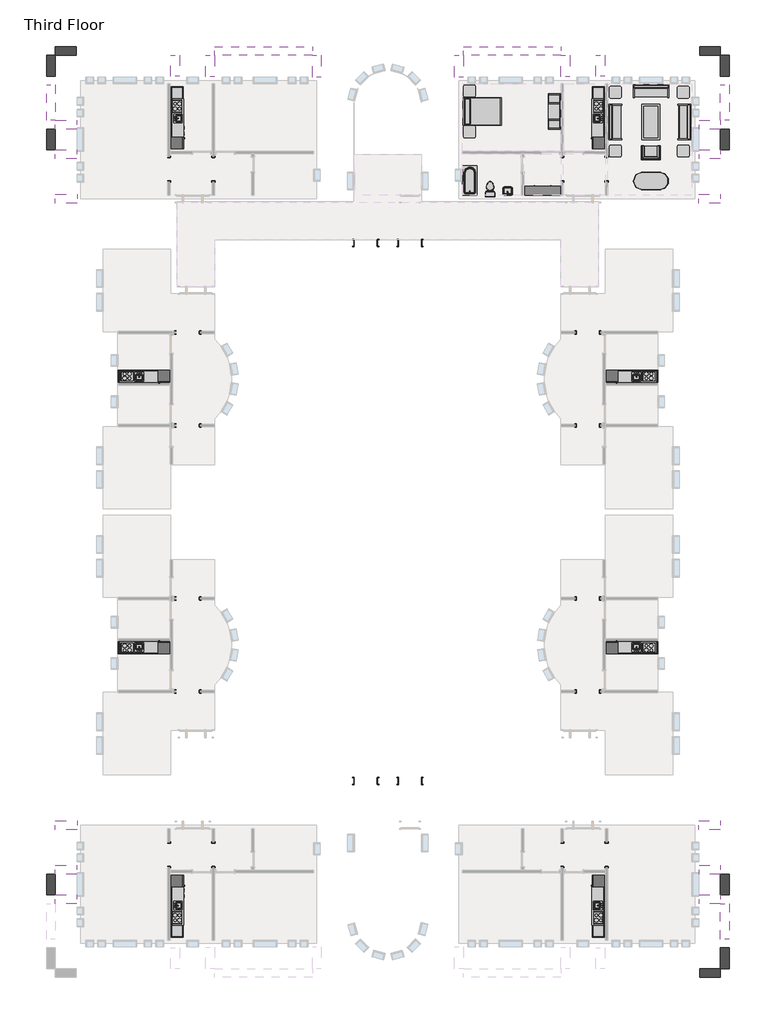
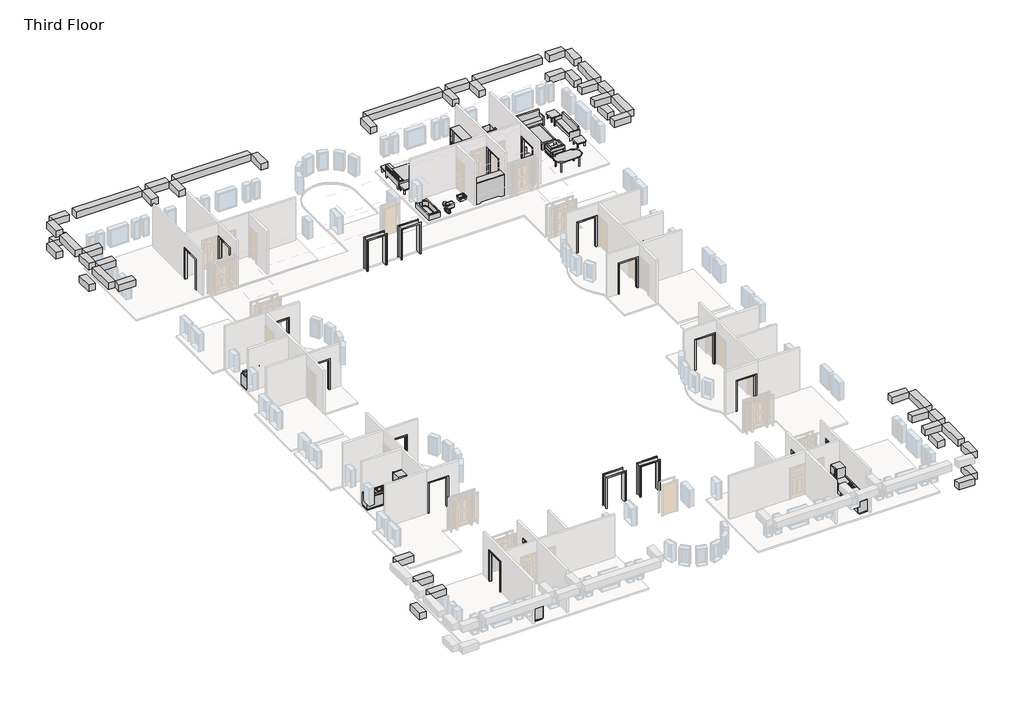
# One storey, part 4 of 4: 33 beams, 28 proxies, 15 furniture elements, 3 flow terminals.
"""IFC4 building model written with IfcOpenShell, lengths in millimetres."""

from ifc_helpers import new_model, si_unit, frame, origin, place, context, project, spatial, polyline, outline, extrude, transform, mapped, element, save
from components import kitchenette_medium_5_9f73a4de, kitchenette_medium_5_952fb32b, proxy_64a468c4, proxy_b7eaed23, proxy_f44482cc, proxy_c3589814, proxy_d58c73d0, proxy_1659ed5c, flow_terminal_0aeb31e3, toilet_domestic_3d_toilet_domestic_3d_f7549cf7, toilet_domestic_3d_toilet_domestic_3d_183bbd19, tub_rectangular_3d_tub_rectangular_3d_5e45a89b, furniture_096e7f55, chair_corbu_chair_corbu_2764bdef, furniture_7c473f12, furniture_ddc78764, furniture_4ef38d96, furniture_cd93a443, furniture_2c34a4f9, furniture_3a588284, furniture_1befe2a2

model = new_model("IFC4")

# Units and contexts
model_context = context("Model", 3, world=origin())
ifc_project = project(units=[si_unit("LENGTHUNIT", "METRE", prefix="MILLI")], contexts=[model_context])

# Site, building, storey
site = spatial("IfcSite", under=ifc_project)
building = spatial("IfcBuilding", under=site)
storey = spatial("IfcBuildingStorey", under=building, Name="Third Floor", Elevation=6096.0)

# Beams
placement = place(None, origin())
element("IfcBeam", 1, ObjectType="Concrete-Rectangular Beam : 18 x 18", at=placement, inside=storey, context=model_context, shape_type="SweptSolid", body=[
    extrude(outline(polyline([(2093.9410437, 12198.8316867), (2093.9410437, 11741.6316867), (1027.1410437, 11741.6316867), (1027.1410437, 12198.8316867), (2093.9410437, 12198.8316867)])), frame((0.0, 0.0, 8686.8), z_axis=(0.0, 0.0, 1.0), x_axis=(1.0, 0.0, 0.0)), (0.0, 0.0, 1.0), 457.2),
    extrude(outline(polyline([(569.9410437, 12198.8316867), (569.9410437, 11741.6316867), (-3862.3589563, 11741.6316867), (-3862.3589563, 12198.8316867), (569.9410437, 12198.8316867)])), frame((0.0, 0.0, 8686.8), z_axis=(0.0, 0.0, 1.0), x_axis=(1.0, 0.0, 0.0)), (0.0, 0.0, 1.0), 457.2),
    extrude(outline(polyline([(-5665.7589563, 11741.6316867), (-5665.7589563, 12198.8316867), (-4319.5589563, 12198.8316867), (-4319.5589563, 11741.6316867), (-5665.7589563, 11741.6316867)])), frame((0.0, 0.0, 8686.8), z_axis=(0.0, 0.0, 1.0), x_axis=(1.0, 0.0, 0.0)), (0.0, 0.0, 1.0), 457.2),
    extrude(outline(polyline([(-6122.9589563, 12198.8316867), (-6122.9589563, 11741.6316867), (-11164.8589563, 11741.6316867), (-11164.8589563, 12198.8316867), (-6122.9589563, 12198.8316867)])), frame((0.0, 0.0, 8686.8), z_axis=(0.0, 0.0, 1.0), x_axis=(1.0, 0.0, 0.0)), (0.0, 0.0, 1.0), 457.2),
])
element("IfcBeam", 2, ObjectType="Concrete-Rectangular Beam : 18 x 18", at=placement, inside=storey, context=model_context, shape_type="SweptSolid", body=[
    extrude(outline(polyline([(2093.9410437, 11741.6316867), (2551.1410437, 11741.6316867), (2551.1410437, 10674.8316867), (2093.9410437, 10674.8316867), (2093.9410437, 11741.6316867)])), frame((0.0, 0.0, 8686.8), z_axis=(0.0, 0.0, 1.0), x_axis=(1.0, 0.0, 0.0)), (0.0, 0.0, 1.0), 457.2),
    extrude(outline(polyline([(2551.1410437, 4578.8316867), (2093.9410437, 4578.8316867), (2093.9410437, 6407.6316867), (2551.1410437, 6407.6316867), (2551.1410437, 4578.8316867)])), frame((0.0, 0.0, 8686.8), z_axis=(0.0, 0.0, 1.0), x_axis=(1.0, 0.0, 0.0)), (0.0, 0.0, 1.0), 457.2),
    extrude(outline(polyline([(2551.1410437, 6864.8316867), (2093.9410437, 6864.8316867), (2093.9410437, 7931.6316867), (2551.1410437, 7931.6316867), (2551.1410437, 6864.8316867)])), frame((0.0, 0.0, 8686.8), z_axis=(0.0, 0.0, 1.0), x_axis=(1.0, 0.0, 0.0)), (0.0, 0.0, 1.0), 457.2),
    extrude(outline(polyline([(2093.9410437, 10217.6316867), (2551.1410437, 10217.6316867), (2551.1410437, 8388.8316867), (2093.9410437, 8388.8316867), (2093.9410437, 10217.6316867)])), frame((0.0, 0.0, 8686.8), z_axis=(0.0, 0.0, 1.0), x_axis=(1.0, 0.0, 0.0)), (0.0, 0.0, 1.0), 457.2),
])
element("IfcBeam", 3, ObjectType="Concrete-Rectangular Beam : 18 x 18", at=placement, inside=storey, context=model_context, shape_type="SweptSolid", body=[
    extrude(outline(polyline([(2093.9410437, 12198.8316867), (2093.9410437, 11741.6316867), (1027.1410437, 11741.6316867), (1027.1410437, 12198.8316867), (2093.9410437, 12198.8316867)])), frame((0.0, 0.0, 7162.8), z_axis=(0.0, 0.0, 1.0), x_axis=(1.0, 0.0, 0.0)), (0.0, 0.0, 1.0), 457.2),
])
element("IfcBeam", 4, ObjectType="Concrete-Rectangular Beam : 18 x 18", at=placement, inside=storey, context=model_context, shape_type="SweptSolid", body=[
    extrude(outline(polyline([(2551.1410437, 10674.8316867), (2093.9410437, 10674.8316867), (2093.9410437, 11741.6316867), (2551.1410437, 11741.6316867), (2551.1410437, 10674.8316867)])), frame((0.0, 0.0, 7162.8), z_axis=(0.0, 0.0, 1.0), x_axis=(1.0, 0.0, 0.0)), (0.0, 0.0, 1.0), 457.2),
])
element("IfcBeam", 5, ObjectType="Concrete-Rectangular Beam : 18 x 18", at=placement, inside=storey, context=model_context, shape_type="SweptSolid", body=[
    extrude(outline(polyline([(-11164.8589563, 10624.0316867), (-11622.0589563, 10624.0316867), (-11622.0589563, 11741.6316867), (-11164.8589563, 11741.6316867), (-11164.8589563, 10624.0316867)])), frame((0.0, 0.0, 8686.8), z_axis=(0.0, 0.0, 1.0), x_axis=(1.0, 0.0, 0.0)), (0.0, 0.0, 1.0), 457.2),
])
element("IfcBeam", 6, ObjectType="Concrete-Rectangular Beam : 18 x 18", at=placement, inside=storey, context=model_context, shape_type="SweptSolid", body=[
    extrude(outline(polyline([(-5665.7589563, 10643.0816867), (-6122.9589563, 10643.0816867), (-6122.9589563, 11741.6316867), (-5665.7589563, 11741.6316867), (-5665.7589563, 10643.0816867)])), frame((0.0, 0.0, 8686.8), z_axis=(0.0, 0.0, 1.0), x_axis=(1.0, 0.0, 0.0)), (0.0, 0.0, 1.0), 457.2),
])
element("IfcBeam", 7, ObjectType="Concrete-Rectangular Beam : 18 x 18", at=placement, inside=storey, context=model_context, shape_type="SweptSolid", body=[
    extrude(outline(polyline([(1001.7410437, 6407.6316867), (1001.7410437, 6864.8316867), (2093.9410437, 6864.8316867), (2093.9410437, 6407.6316867), (1001.7410437, 6407.6316867)])), frame((0.0, 0.0, 8686.8), z_axis=(0.0, 0.0, 1.0), x_axis=(1.0, 0.0, 0.0)), (0.0, 0.0, 1.0), 457.2),
])
element("IfcBeam", 8, ObjectType="Concrete-Rectangular Beam : 18 x 18", at=placement, inside=storey, context=model_context, shape_type="SweptSolid", body=[
    extrude(outline(polyline([(-3862.3589563, 10674.8316867), (-4319.5589563, 10674.8316867), (-4319.5589563, 11741.6316867), (-3862.3589563, 11741.6316867), (-3862.3589563, 10674.8316867)])), frame((0.0, 0.0, 8686.8), z_axis=(0.0, 0.0, 1.0), x_axis=(1.0, 0.0, 0.0)), (0.0, 0.0, 1.0), 457.2),
])
element("IfcBeam", 9, ObjectType="Concrete-Rectangular Beam : 18 x 18", at=placement, inside=storey, context=model_context, shape_type="SweptSolid", body=[
    extrude(outline(polyline([(1001.7410437, 7931.6316867), (1001.7410437, 8388.8316867), (2093.9410437, 8388.8316867), (2093.9410437, 7931.6316867), (1001.7410437, 7931.6316867)])), frame((0.0, 0.0, 8686.8), z_axis=(0.0, 0.0, 1.0), x_axis=(1.0, 0.0, 0.0)), (0.0, 0.0, 1.0), 457.2),
])
element("IfcBeam", 10, ObjectType="Concrete-Rectangular Beam : 18 x 18", at=placement, inside=storey, context=model_context, shape_type="SweptSolid", body=[
    extrude(outline(polyline([(976.3410437, 4121.6316867), (976.3410437, 4578.8316867), (2093.9410437, 4578.8316867), (2093.9410437, 4121.6316867), (976.3410437, 4121.6316867)])), frame((0.0, 0.0, 8686.8), z_axis=(0.0, 0.0, 1.0), x_axis=(1.0, 0.0, 0.0)), (0.0, 0.0, 1.0), 457.2),
])
element("IfcBeam", 11, ObjectType="Concrete-Rectangular Beam : 18 x 18", at=placement, inside=storey, context=model_context, shape_type="SweptSolid", body=[
    extrude(outline(polyline([(2551.1410437, 6864.8316867), (2093.9410437, 6864.8316867), (2093.9410437, 7931.6316867), (2551.1410437, 7931.6316867), (2551.1410437, 6864.8316867)])), frame((0.0, 0.0, 7162.8), z_axis=(0.0, 0.0, 1.0), x_axis=(1.0, 0.0, 0.0)), (0.0, 0.0, 1.0), 457.2),
])
element("IfcBeam", 12, ObjectType="Concrete-Rectangular Beam : 18 x 18", at=placement, inside=storey, context=model_context, shape_type="SweptSolid", body=[
    extrude(outline(polyline([(-32218.2839563, 11741.6316867), (-32218.2839563, 12198.8316867), (-31151.4839563, 12198.8316867), (-31151.4839563, 11741.6316867), (-32218.2839563, 11741.6316867)])), frame((0.0, 0.0, 8686.8), z_axis=(0.0, 0.0, 1.0), x_axis=(1.0, 0.0, 0.0)), (0.0, 0.0, 1.0), 457.2),
    extrude(outline(polyline([(-30694.2839563, 11741.6316867), (-30694.2839563, 12198.8316867), (-26261.9839563, 12198.8316867), (-26261.9839563, 11741.6316867), (-30694.2839563, 11741.6316867)])), frame((0.0, 0.0, 8686.8), z_axis=(0.0, 0.0, 1.0), x_axis=(1.0, 0.0, 0.0)), (0.0, 0.0, 1.0), 457.2),
    extrude(outline(polyline([(-24458.5839563, 12198.8316867), (-24458.5839563, 11741.6316867), (-25804.7839563, 11741.6316867), (-25804.7839563, 12198.8316867), (-24458.5839563, 12198.8316867)])), frame((0.0, 0.0, 8686.8), z_axis=(0.0, 0.0, 1.0), x_axis=(1.0, 0.0, 0.0)), (0.0, 0.0, 1.0), 457.2),
    extrude(outline(polyline([(-24001.3839563, 11741.6316867), (-24001.3839563, 12198.8316867), (-18959.4839563, 12198.8316867), (-18959.4839563, 11741.6316867), (-24001.3839563, 11741.6316867)])), frame((0.0, 0.0, 8686.8), z_axis=(0.0, 0.0, 1.0), x_axis=(1.0, 0.0, 0.0)), (0.0, 0.0, 1.0), 457.2),
])
element("IfcBeam", 13, ObjectType="Concrete-Rectangular Beam : 18 x 18", at=placement, inside=storey, context=model_context, shape_type="SweptSolid", body=[
    extrude(outline(polyline([(-32218.2839563, 4578.8316867), (-32675.4839563, 4578.8316867), (-32675.4839563, 6407.6316867), (-32218.2839563, 6407.6316867), (-32218.2839563, 4578.8316867)])), frame((0.0, 0.0, 8686.8), z_axis=(0.0, 0.0, 1.0), x_axis=(1.0, 0.0, 0.0)), (0.0, 0.0, 1.0), 457.2),
    extrude(outline(polyline([(-32675.4839563, 11741.6316867), (-32218.2839563, 11741.6316867), (-32218.2839563, 10674.8316867), (-32675.4839563, 10674.8316867), (-32675.4839563, 11741.6316867)])), frame((0.0, 0.0, 8686.8), z_axis=(0.0, 0.0, 1.0), x_axis=(1.0, 0.0, 0.0)), (0.0, 0.0, 1.0), 457.2),
    extrude(outline(polyline([(-32218.2839563, 6864.8316867), (-32675.4839563, 6864.8316867), (-32675.4839563, 7931.6316867), (-32218.2839563, 7931.6316867), (-32218.2839563, 6864.8316867)])), frame((0.0, 0.0, 8686.8), z_axis=(0.0, 0.0, 1.0), x_axis=(1.0, 0.0, 0.0)), (0.0, 0.0, 1.0), 457.2),
    extrude(outline(polyline([(-32675.4839563, 10217.6316867), (-32218.2839563, 10217.6316867), (-32218.2839563, 8388.8316867), (-32675.4839563, 8388.8316867), (-32675.4839563, 10217.6316867)])), frame((0.0, 0.0, 8686.8), z_axis=(0.0, 0.0, 1.0), x_axis=(1.0, 0.0, 0.0)), (0.0, 0.0, 1.0), 457.2),
])
element("IfcBeam", 14, ObjectType="Concrete-Rectangular Beam : 18 x 18", at=placement, inside=storey, context=model_context, shape_type="SweptSolid", body=[
    extrude(outline(polyline([(-32218.2839563, 12198.8316867), (-31151.4839563, 12198.8316867), (-31151.4839563, 11741.6316867), (-32218.2839563, 11741.6316867), (-32218.2839563, 12198.8316867)])), frame((0.0, 0.0, 7162.8), z_axis=(0.0, 0.0, 1.0), x_axis=(1.0, 0.0, 0.0)), (0.0, 0.0, 1.0), 457.2),
])
element("IfcBeam", 15, ObjectType="Concrete-Rectangular Beam : 18 x 18", at=placement, inside=storey, context=model_context, shape_type="SweptSolid", body=[
    extrude(outline(polyline([(-32675.4839563, 10674.8316867), (-32675.4839563, 11741.6316867), (-32218.2839563, 11741.6316867), (-32218.2839563, 10674.8316867), (-32675.4839563, 10674.8316867)])), frame((0.0, 0.0, 7162.8), z_axis=(0.0, 0.0, 1.0), x_axis=(1.0, 0.0, 0.0)), (0.0, 0.0, 1.0), 457.2),
])
element("IfcBeam", 16, ObjectType="Concrete-Rectangular Beam : 18 x 18", at=placement, inside=storey, context=model_context, shape_type="SweptSolid", body=[
    extrude(outline(polyline([(-18502.2839563, 10624.0316867), (-18959.4839563, 10624.0316867), (-18959.4839563, 11741.6316867), (-18502.2839563, 11741.6316867), (-18502.2839563, 10624.0316867)])), frame((0.0, 0.0, 8686.8), z_axis=(0.0, 0.0, 1.0), x_axis=(1.0, 0.0, 0.0)), (0.0, 0.0, 1.0), 457.2),
])
element("IfcBeam", 17, ObjectType="Concrete-Rectangular Beam : 18 x 18", at=placement, inside=storey, context=model_context, shape_type="SweptSolid", body=[
    extrude(outline(polyline([(-24001.3839563, 10643.0816867), (-24458.5839563, 10643.0816867), (-24458.5839563, 11741.6316867), (-24001.3839563, 11741.6316867), (-24001.3839563, 10643.0816867)])), frame((0.0, 0.0, 8686.8), z_axis=(0.0, 0.0, 1.0), x_axis=(1.0, 0.0, 0.0)), (0.0, 0.0, 1.0), 457.2),
])
element("IfcBeam", 18, ObjectType="Concrete-Rectangular Beam : 18 x 18", at=placement, inside=storey, context=model_context, shape_type="SweptSolid", body=[
    extrude(outline(polyline([(-31126.0839563, 6864.8316867), (-31126.0839563, 6407.6316867), (-32218.2839563, 6407.6316867), (-32218.2839563, 6864.8316867), (-31126.0839563, 6864.8316867)])), frame((0.0, 0.0, 8686.8), z_axis=(0.0, 0.0, 1.0), x_axis=(1.0, 0.0, 0.0)), (0.0, 0.0, 1.0), 457.2),
])
element("IfcBeam", 19, ObjectType="Concrete-Rectangular Beam : 18 x 18", at=placement, inside=storey, context=model_context, shape_type="SweptSolid", body=[
    extrude(outline(polyline([(-25804.7839563, 10674.8316867), (-26261.9839563, 10674.8316867), (-26261.9839563, 11741.6316867), (-25804.7839563, 11741.6316867), (-25804.7839563, 10674.8316867)])), frame((0.0, 0.0, 8686.8), z_axis=(0.0, 0.0, 1.0), x_axis=(1.0, 0.0, 0.0)), (0.0, 0.0, 1.0), 457.2),
])
element("IfcBeam", 20, ObjectType="Concrete-Rectangular Beam : 18 x 18", at=placement, inside=storey, context=model_context, shape_type="SweptSolid", body=[
    extrude(outline(polyline([(-31126.0839563, 8388.8316867), (-31126.0839563, 7931.6316867), (-32218.2839563, 7931.6316867), (-32218.2839563, 8388.8316867), (-31126.0839563, 8388.8316867)])), frame((0.0, 0.0, 8686.8), z_axis=(0.0, 0.0, 1.0), x_axis=(1.0, 0.0, 0.0)), (0.0, 0.0, 1.0), 457.2),
])
element("IfcBeam", 21, ObjectType="Concrete-Rectangular Beam : 18 x 18", at=placement, inside=storey, context=model_context, shape_type="SweptSolid", body=[
    extrude(outline(polyline([(-31100.6839563, 4578.8316867), (-31100.6839563, 4121.6316867), (-32218.2839563, 4121.6316867), (-32218.2839563, 4578.8316867), (-31100.6839563, 4578.8316867)])), frame((0.0, 0.0, 8686.8), z_axis=(0.0, 0.0, 1.0), x_axis=(1.0, 0.0, 0.0)), (0.0, 0.0, 1.0), 457.2),
])
element("IfcBeam", 22, ObjectType="Concrete-Rectangular Beam : 18 x 18", at=placement, inside=storey, context=model_context, shape_type="SweptSolid", body=[
    extrude(outline(polyline([(-32675.4839563, 6864.8316867), (-32675.4839563, 7931.6316867), (-32218.2839563, 7931.6316867), (-32218.2839563, 6864.8316867), (-32675.4839563, 6864.8316867)])), frame((0.0, 0.0, 7162.8), z_axis=(0.0, 0.0, 1.0), x_axis=(1.0, 0.0, 0.0)), (0.0, 0.0, 1.0), 457.2),
])
element("IfcBeam", 23, ObjectType="Concrete-Rectangular Beam : 18 x 18", at=placement, inside=storey, context=model_context, shape_type="SweptSolid", body=[
    extrude(outline(polyline([(2093.9410437, -28187.1683133), (2551.1410437, -28187.1683133), (2551.1410437, -30015.9683133), (2093.9410437, -30015.9683133), (2093.9410437, -28187.1683133)])), frame((0.0, 0.0, 8686.8), z_axis=(0.0, 0.0, 1.0), x_axis=(1.0, 0.0, 0.0)), (0.0, 0.0, 1.0), 457.2),
    extrude(outline(polyline([(2551.1410437, -35349.9683133), (2093.9410437, -35349.9683133), (2093.9410437, -34283.1683133), (2551.1410437, -34283.1683133), (2551.1410437, -35349.9683133)])), frame((0.0, 0.0, 8686.8), z_axis=(0.0, 0.0, 1.0), x_axis=(1.0, 0.0, 0.0)), (0.0, 0.0, 1.0), 457.2),
    extrude(outline(polyline([(2093.9410437, -30473.1683133), (2551.1410437, -30473.1683133), (2551.1410437, -31539.9683133), (2093.9410437, -31539.9683133), (2093.9410437, -30473.1683133)])), frame((0.0, 0.0, 8686.8), z_axis=(0.0, 0.0, 1.0), x_axis=(1.0, 0.0, 0.0)), (0.0, 0.0, 1.0), 457.2),
    extrude(outline(polyline([(2551.1410437, -33825.9683133), (2093.9410437, -33825.9683133), (2093.9410437, -31997.1683133), (2551.1410437, -31997.1683133), (2551.1410437, -33825.9683133)])), frame((0.0, 0.0, 8686.8), z_axis=(0.0, 0.0, 1.0), x_axis=(1.0, 0.0, 0.0)), (0.0, 0.0, 1.0), 457.2),
])
element("IfcBeam", 24, ObjectType="Concrete-Rectangular Beam : 18 x 18", at=placement, inside=storey, context=model_context, shape_type="SweptSolid", body=[
    extrude(outline(polyline([(2093.9410437, -35807.1683133), (1027.1410437, -35807.1683133), (1027.1410437, -35349.9683133), (2093.9410437, -35349.9683133), (2093.9410437, -35807.1683133)])), frame((0.0, 0.0, 7162.8), z_axis=(0.0, 0.0, 1.0), x_axis=(1.0, 0.0, 0.0)), (0.0, 0.0, 1.0), 457.2),
])
element("IfcBeam", 25, ObjectType="Concrete-Rectangular Beam : 18 x 18", at=placement, inside=storey, context=model_context, shape_type="SweptSolid", body=[
    extrude(outline(polyline([(2551.1410437, -34283.1683133), (2551.1410437, -35349.9683133), (2093.9410437, -35349.9683133), (2093.9410437, -34283.1683133), (2551.1410437, -34283.1683133)])), frame((0.0, 0.0, 7162.8), z_axis=(0.0, 0.0, 1.0), x_axis=(1.0, 0.0, 0.0)), (0.0, 0.0, 1.0), 457.2),
])
element("IfcBeam", 26, ObjectType="Concrete-Rectangular Beam : 18 x 18", at=placement, inside=storey, context=model_context, shape_type="SweptSolid", body=[
    extrude(outline(polyline([(1001.7410437, -30473.1683133), (1001.7410437, -30015.9683133), (2093.9410437, -30015.9683133), (2093.9410437, -30473.1683133), (1001.7410437, -30473.1683133)])), frame((0.0, 0.0, 8686.8), z_axis=(0.0, 0.0, 1.0), x_axis=(1.0, 0.0, 0.0)), (0.0, 0.0, 1.0), 457.2),
])
element("IfcBeam", 27, ObjectType="Concrete-Rectangular Beam : 18 x 18", at=placement, inside=storey, context=model_context, shape_type="SweptSolid", body=[
    extrude(outline(polyline([(1001.7410437, -31997.1683133), (1001.7410437, -31539.9683133), (2093.9410437, -31539.9683133), (2093.9410437, -31997.1683133), (1001.7410437, -31997.1683133)])), frame((0.0, 0.0, 8686.8), z_axis=(0.0, 0.0, 1.0), x_axis=(1.0, 0.0, 0.0)), (0.0, 0.0, 1.0), 457.2),
])
element("IfcBeam", 28, ObjectType="Concrete-Rectangular Beam : 18 x 18", at=placement, inside=storey, context=model_context, shape_type="SweptSolid", body=[
    extrude(outline(polyline([(976.3410437, -28187.1683133), (976.3410437, -27729.9683133), (2093.9410437, -27729.9683133), (2093.9410437, -28187.1683133), (976.3410437, -28187.1683133)])), frame((0.0, 0.0, 8686.8), z_axis=(0.0, 0.0, 1.0), x_axis=(1.0, 0.0, 0.0)), (0.0, 0.0, 1.0), 457.2),
])
element("IfcBeam", 29, ObjectType="Concrete-Rectangular Beam : 18 x 18", at=placement, inside=storey, context=model_context, shape_type="SweptSolid", body=[
    extrude(outline(polyline([(2551.1410437, -30473.1683133), (2551.1410437, -31539.9683133), (2093.9410437, -31539.9683133), (2093.9410437, -30473.1683133), (2551.1410437, -30473.1683133)])), frame((0.0, 0.0, 7162.8), z_axis=(0.0, 0.0, 1.0), x_axis=(1.0, 0.0, 0.0)), (0.0, 0.0, 1.0), 457.2),
])
element("IfcBeam", 30, ObjectType="Concrete-Rectangular Beam : 18 x 18", at=placement, inside=storey, context=model_context, shape_type="SweptSolid", body=[
    extrude(outline(polyline([(-31126.0839563, -30015.9683133), (-31126.0839563, -30473.1683133), (-32218.2839563, -30473.1683133), (-32218.2839563, -30015.9683133), (-31126.0839563, -30015.9683133)])), frame((0.0, 0.0, 8686.8), z_axis=(0.0, 0.0, 1.0), x_axis=(1.0, 0.0, 0.0)), (0.0, 0.0, 1.0), 457.2),
])
element("IfcBeam", 31, ObjectType="Concrete-Rectangular Beam : 18 x 18", at=placement, inside=storey, context=model_context, shape_type="SweptSolid", body=[
    extrude(outline(polyline([(-31126.0839563, -31539.9683133), (-31126.0839563, -31997.1683133), (-32218.2839563, -31997.1683133), (-32218.2839563, -31539.9683133), (-31126.0839563, -31539.9683133)])), frame((0.0, 0.0, 8686.8), z_axis=(0.0, 0.0, 1.0), x_axis=(1.0, 0.0, 0.0)), (0.0, 0.0, 1.0), 457.2),
])
element("IfcBeam", 32, ObjectType="Concrete-Rectangular Beam : 18 x 18", at=placement, inside=storey, context=model_context, shape_type="SweptSolid", body=[
    extrude(outline(polyline([(-31100.6839563, -27729.9683133), (-31100.6839563, -28187.1683133), (-32218.2839563, -28187.1683133), (-32218.2839563, -27729.9683133), (-31100.6839563, -27729.9683133)])), frame((0.0, 0.0, 8686.8), z_axis=(0.0, 0.0, 1.0), x_axis=(1.0, 0.0, 0.0)), (0.0, 0.0, 1.0), 457.2),
])
element("IfcBeam", 33, ObjectType="Concrete-Rectangular Beam : 18 x 18", at=placement, inside=storey, context=model_context, shape_type="SweptSolid", body=[
    extrude(outline(polyline([(-32675.4839563, -30473.1683133), (-32218.2839563, -30473.1683133), (-32218.2839563, -31539.9683133), (-32675.4839563, -31539.9683133), (-32675.4839563, -30473.1683133)])), frame((0.0, 0.0, 7162.8), z_axis=(0.0, 0.0, 1.0), x_axis=(1.0, 0.0, 0.0)), (0.0, 0.0, 1.0), 457.2),
])

# Proxies
kitchenette_medium_5_shape = kitchenette_medium_5_9f73a4de(model_context)
element("IfcBuildingElementProxy", 34, Name="Kitchenette - Medium : 5'", ObjectType="Kitchenette - Medium : 5'", at=placement, inside=storey, context=model_context, shape_type="MappedRepresentation", body=[
    mapped(kitchenette_medium_5_shape, transform((-28239.6966612, -4494.4827414, 6096.0), x_axis=(1.0, 0.0, 0.0), y_axis=(0.0, 1.0, 0.0), z_axis=(0.0, 0.0, 1.0))),
])
element("IfcBuildingElementProxy", 35, Name="Kitchenette - Medium : 5'", ObjectType="Kitchenette - Medium : 5'", at=placement, inside=storey, context=model_context, shape_type="MappedRepresentation", body=[
    mapped(kitchenette_medium_5_shape, transform((-1884.6462514, -19113.8538852, 6096.0), x_axis=(-1.0, 0.0, 0.0), y_axis=(0.0, -1.0, 0.0), z_axis=(0.0, 0.0, 1.0))),
])
kitchenette_medium_5_2_shape = kitchenette_medium_5_952fb32b(model_context)
element("IfcBuildingElementProxy", 36, Name="Kitchenette - Medium : 5'", ObjectType="Kitchenette - Medium : 5'", at=placement, inside=storey, context=model_context, shape_type="MappedRepresentation", body=[
    mapped(kitchenette_medium_5_2_shape, transform((-1884.6462514, -4494.4827414, 6096.0), x_axis=(-1.0, 0.0, 0.0), y_axis=(0.0, -1.0, 0.0), z_axis=(0.0, 0.0, 1.0))),
])
element("IfcBuildingElementProxy", 37, Name="Kitchenette - Medium : 5'", ObjectType="Kitchenette - Medium : 5'", at=placement, inside=storey, context=model_context, shape_type="MappedRepresentation", body=[
    mapped(kitchenette_medium_5_2_shape, transform((-28239.6966612, -19113.8538852, 6096.0), x_axis=(1.0, 0.0, 0.0), y_axis=(0.0, 1.0, 0.0), z_axis=(0.0, 0.0, 1.0))),
])
proxy_shape = proxy_64a468c4(model_context)
element("IfcBuildingElementProxy", 38, Name="Kitchenette - Medium : 8'6\"", ObjectType="Kitchenette - Medium : 8'6\"", at=placement, inside=storey, context=model_context, shape_type="MappedRepresentation", body=[
    mapped(proxy_shape, transform((-3887.7589563, 8837.7956433, 6096.0), x_axis=(0.0, -1.0, 0.0), y_axis=(1.0, 0.0, 0.0), z_axis=(0.0, 0.0, 1.0))),
])
element("IfcBuildingElementProxy", 39, Name="Kitchenette - Medium : 8'6\"", ObjectType="Kitchenette - Medium : 8'6\"", at=placement, inside=storey, context=model_context, shape_type="MappedRepresentation", body=[
    mapped(proxy_shape, transform((-26236.5839563, -32446.1322699, 6096.0), x_axis=(0.0, 1.0, 0.0), y_axis=(-1.0, 0.0, 0.0), z_axis=(0.0, 0.0, 1.0))),
])
proxy_2_shape = proxy_b7eaed23(model_context)
element("IfcBuildingElementProxy", 40, Name="Kitchenette - Medium : 8'6\"", ObjectType="Kitchenette - Medium : 8'6\"", at=placement, inside=storey, context=model_context, shape_type="MappedRepresentation", body=[
    mapped(proxy_2_shape, transform((-26236.5839563, 8837.7956433, 6096.0), x_axis=(0.0, -1.0, 0.0), y_axis=(1.0, 0.0, 0.0), z_axis=(0.0, 0.0, 1.0))),
])
element("IfcBuildingElementProxy", 41, Name="Kitchenette - Medium : 8'6\"", ObjectType="Kitchenette - Medium : 8'6\"", at=placement, inside=storey, context=model_context, shape_type="MappedRepresentation", body=[
    mapped(proxy_2_shape, transform((-3887.7589563, -32446.1322699, 6096.0), x_axis=(0.0, 1.0, 0.0), y_axis=(-1.0, 0.0, 0.0), z_axis=(0.0, 0.0, 1.0))),
])
proxy_3_shape = proxy_f44482cc(model_context)
element("IfcBuildingElementProxy", 42, Name="Opening-Cased : 48\" x 84\"", ObjectType="Opening-Cased : 48\" x 84\"", at=placement, inside=storey, context=model_context, shape_type="MappedRepresentation", body=[
    mapped(proxy_3_shape, transform((-3773.4589563, 5882.4203434, 6096.0), x_axis=(0.0, 1.0, 0.0), y_axis=(-1.0, 0.0, 0.0), z_axis=(0.0, 0.0, 1.0))),
])
element("IfcBuildingElementProxy", 43, Name="Opening-Cased : 48\" x 84\"", ObjectType="Opening-Cased : 48\" x 84\"", at=placement, inside=storey, context=model_context, shape_type="MappedRepresentation", body=[
    mapped(proxy_3_shape, transform((-6059.4589563, 5866.04303, 6096.0), x_axis=(0.0, -1.0, 0.0), y_axis=(1.0, 0.0, 0.0), z_axis=(0.0, 0.0, 1.0))),
])
element("IfcBuildingElementProxy", 44, Name="Opening-Cased : 48\" x 84\"", ObjectType="Opening-Cased : 48\" x 84\"", at=placement, inside=storey, context=model_context, shape_type="MappedRepresentation", body=[
    mapped(proxy_3_shape, transform((-25377.4952996, -7344.8808133, 6096.0), x_axis=(1.0, 0.0, 0.0), y_axis=(0.0, 1.0, 0.0), z_axis=(0.0, 0.0, 1.0))),
])
element("IfcBuildingElementProxy", 45, Name="Opening-Cased : 48\" x 84\"", ObjectType="Opening-Cased : 48\" x 84\"", at=placement, inside=storey, context=model_context, shape_type="MappedRepresentation", body=[
    mapped(proxy_3_shape, transform((-25393.872613, -2547.4558133, 6096.0), x_axis=(-1.0, 0.0, 0.0), y_axis=(0.0, -1.0, 0.0), z_axis=(0.0, 0.0, 1.0))),
])
element("IfcBuildingElementProxy", 46, Name="Opening-Cased : 48\" x 84\"", ObjectType="Opening-Cased : 48\" x 84\"", at=placement, inside=storey, context=model_context, shape_type="MappedRepresentation", body=[
    mapped(proxy_3_shape, transform((-4746.847613, -16263.4558133, 6096.0), x_axis=(-1.0, 0.0, 0.0), y_axis=(0.0, -1.0, 0.0), z_axis=(0.0, 0.0, 1.0))),
])
element("IfcBuildingElementProxy", 47, Name="Opening-Cased : 48\" x 84\"", ObjectType="Opening-Cased : 48\" x 84\"", at=placement, inside=storey, context=model_context, shape_type="MappedRepresentation", body=[
    mapped(proxy_3_shape, transform((-4730.4702996, -21060.8808133, 6096.0), x_axis=(1.0, 0.0, 0.0), y_axis=(0.0, 1.0, 0.0), z_axis=(0.0, 0.0, 1.0))),
])
element("IfcBuildingElementProxy", 48, Name="Opening-Cased : 48\" x 84\"", ObjectType="Opening-Cased : 48\" x 84\"", at=placement, inside=storey, context=model_context, shape_type="MappedRepresentation", body=[
    mapped(proxy_3_shape, transform((-26350.8839563, -29490.75697, 6096.0), x_axis=(0.0, -1.0, 0.0), y_axis=(1.0, 0.0, 0.0), z_axis=(0.0, 0.0, 1.0))),
])
element("IfcBuildingElementProxy", 49, Name="Opening-Cased : 48\" x 84\"", ObjectType="Opening-Cased : 48\" x 84\"", at=placement, inside=storey, context=model_context, shape_type="MappedRepresentation", body=[
    mapped(proxy_3_shape, transform((-24064.8839563, -29474.3796566, 6096.0), x_axis=(0.0, 1.0, 0.0), y_axis=(-1.0, 0.0, 0.0), z_axis=(0.0, 0.0, 1.0))),
])
proxy_4_shape = proxy_c3589814(model_context)
element("IfcBuildingElementProxy", 50, Name="Opening-Cased : 48\" x 84\"", ObjectType="Opening-Cased : 48\" x 84\"", at=placement, inside=storey, context=model_context, shape_type="MappedRepresentation", body=[
    mapped(proxy_4_shape, transform((-16213.360113, 2064.2316867, 6096.0), x_axis=(-1.0, 0.0, 0.0), y_axis=(0.0, -1.0, 0.0), z_axis=(0.0, 0.0, 1.0))),
])
element("IfcBuildingElementProxy", 51, Name="Opening-Cased : 48\" x 84\"", ObjectType="Opening-Cased : 48\" x 84\"", at=placement, inside=storey, context=model_context, shape_type="MappedRepresentation", body=[
    mapped(proxy_4_shape, transform((-13927.360113, 2064.2316867, 6096.0), x_axis=(-1.0, 0.0, 0.0), y_axis=(0.0, -1.0, 0.0), z_axis=(0.0, 0.0, 1.0))),
])
proxy_5_shape = proxy_d58c73d0(model_context)
element("IfcBuildingElementProxy", 52, Name="Opening-Cased : 48\" x 84\"", ObjectType="Opening-Cased : 48\" x 84\"", at=placement, inside=storey, context=model_context, shape_type="MappedRepresentation", body=[
    mapped(proxy_5_shape, transform((-4746.847613, -7344.8808133, 6096.0), x_axis=(-1.0, 0.0, 0.0), y_axis=(0.0, -1.0, 0.0), z_axis=(0.0, 0.0, 1.0))),
])
element("IfcBuildingElementProxy", 53, Name="Opening-Cased : 48\" x 84\"", ObjectType="Opening-Cased : 48\" x 84\"", at=placement, inside=storey, context=model_context, shape_type="MappedRepresentation", body=[
    mapped(proxy_5_shape, transform((-4730.4702996, -2547.4558133, 6096.0), x_axis=(1.0, 0.0, 0.0), y_axis=(0.0, 1.0, 0.0), z_axis=(0.0, 0.0, 1.0))),
])
element("IfcBuildingElementProxy", 54, Name="Opening-Cased : 48\" x 84\"", ObjectType="Opening-Cased : 48\" x 84\"", at=placement, inside=storey, context=model_context, shape_type="MappedRepresentation", body=[
    mapped(proxy_5_shape, transform((-26350.8839563, 5882.4203434, 6096.0), x_axis=(0.0, 1.0, 0.0), y_axis=(-1.0, 0.0, 0.0), z_axis=(0.0, 0.0, 1.0))),
])
element("IfcBuildingElementProxy", 55, Name="Opening-Cased : 48\" x 84\"", ObjectType="Opening-Cased : 48\" x 84\"", at=placement, inside=storey, context=model_context, shape_type="MappedRepresentation", body=[
    mapped(proxy_5_shape, transform((-24064.8839563, 5866.04303, 6096.0), x_axis=(0.0, -1.0, 0.0), y_axis=(1.0, 0.0, 0.0), z_axis=(0.0, 0.0, 1.0))),
])
element("IfcBuildingElementProxy", 56, Name="Opening-Cased : 48\" x 84\"", ObjectType="Opening-Cased : 48\" x 84\"", at=placement, inside=storey, context=model_context, shape_type="MappedRepresentation", body=[
    mapped(proxy_5_shape, transform((-3773.4589563, -29490.75697, 6096.0), x_axis=(0.0, -1.0, 0.0), y_axis=(1.0, 0.0, 0.0), z_axis=(0.0, 0.0, 1.0))),
])
element("IfcBuildingElementProxy", 57, Name="Opening-Cased : 48\" x 84\"", ObjectType="Opening-Cased : 48\" x 84\"", at=placement, inside=storey, context=model_context, shape_type="MappedRepresentation", body=[
    mapped(proxy_5_shape, transform((-6059.4589563, -29474.3796566, 6096.0), x_axis=(0.0, 1.0, 0.0), y_axis=(-1.0, 0.0, 0.0), z_axis=(0.0, 0.0, 1.0))),
])
element("IfcBuildingElementProxy", 58, Name="Opening-Cased : 48\" x 84\"", ObjectType="Opening-Cased : 48\" x 84\"", at=placement, inside=storey, context=model_context, shape_type="MappedRepresentation", body=[
    mapped(proxy_5_shape, transform((-25377.4952996, -16263.4558133, 6096.0), x_axis=(1.0, 0.0, 0.0), y_axis=(0.0, 1.0, 0.0), z_axis=(0.0, 0.0, 1.0))),
])
element("IfcBuildingElementProxy", 59, Name="Opening-Cased : 48\" x 84\"", ObjectType="Opening-Cased : 48\" x 84\"", at=placement, inside=storey, context=model_context, shape_type="MappedRepresentation", body=[
    mapped(proxy_5_shape, transform((-25393.872613, -21060.8808133, 6096.0), x_axis=(-1.0, 0.0, 0.0), y_axis=(0.0, -1.0, 0.0), z_axis=(0.0, 0.0, 1.0))),
])
proxy_6_shape = proxy_1659ed5c(model_context)
element("IfcBuildingElementProxy", 60, Name="Opening-Cased : 48\" x 84\"", ObjectType="Opening-Cased : 48\" x 84\"", at=placement, inside=storey, context=model_context, shape_type="MappedRepresentation", body=[
    mapped(proxy_6_shape, transform((-16213.360113, -25672.5683133, 6096.0), x_axis=(-1.0, 0.0, 0.0), y_axis=(0.0, -1.0, 0.0), z_axis=(0.0, 0.0, 1.0))),
])
element("IfcBuildingElementProxy", 61, Name="Opening-Cased : 48\" x 84\"", ObjectType="Opening-Cased : 48\" x 84\"", at=placement, inside=storey, context=model_context, shape_type="MappedRepresentation", body=[
    mapped(proxy_6_shape, transform((-13927.360113, -25672.5683133, 6096.0), x_axis=(-1.0, 0.0, 0.0), y_axis=(0.0, -1.0, 0.0), z_axis=(0.0, 0.0, 1.0))),
])

# Flow terminals
flow_terminal_shape = flow_terminal_0aeb31e3(model_context)
element("IfcFlowTerminal", 62, ObjectType="Sink Vanity-Square : 24\" x 19\"", at=placement, inside=storey, context=model_context, shape_type="MappedRepresentation", body=[
    mapped(flow_terminal_shape, transform((-8864.7572157, 4706.5895878, 6096.0), x_axis=(-1.0, 0.0, 0.0), y_axis=(0.0, -1.0, 0.0), z_axis=(0.0, 0.0, 1.0))),
])
toilet_domestic_3d_toilet_domestic_3d_shape = toilet_domestic_3d_toilet_domestic_3d_f7549cf7(model_context)
toilet_domestic_3d_toilet_domestic_3d_2_shape = toilet_domestic_3d_toilet_domestic_3d_183bbd19(model_context)
element("IfcFlowTerminal", 63, ObjectType="Toilet-Domestic-3D : Toilet-Domestic-3D", at=placement, inside=storey, context=model_context, shape_type="MappedRepresentation", body=[
    mapped(toilet_domestic_3d_toilet_domestic_3d_shape, transform((-9782.1466587, 4940.866411, 6096.0), x_axis=(-1.0000000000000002, 0.0, 0.0), y_axis=(0.0, -1.0000000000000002, 0.0), z_axis=(0.0, 0.0, 1.0))),
    mapped(toilet_domestic_3d_toilet_domestic_3d_2_shape, transform((-9782.1466587, 4940.866411, 6096.0), x_axis=(-1.0000000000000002, 0.0, 0.0), y_axis=(0.0, -1.0000000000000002, 0.0), z_axis=(0.0, 0.0, 1.0))),
])
tub_rectangular_3d_tub_rectangular_3d_shape = tub_rectangular_3d_tub_rectangular_3d_5e45a89b(model_context)
element("IfcFlowTerminal", 64, ObjectType="Tub-Rectangular-3D : Tub-Rectangular-3D", at=placement, inside=storey, context=model_context, shape_type="MappedRepresentation", body=[
    mapped(tub_rectangular_3d_tub_rectangular_3d_shape, transform((-11393.4589563, 5637.0471554, 6096.0), x_axis=(0.0, 1.0, 0.0), y_axis=(-1.0, 0.0, 0.0), z_axis=(0.0, 0.0, 1.0))),
])

# Furniture
furniture_shape = furniture_096e7f55(model_context)
element("IfcFurniture", 65, ObjectType="Bed-Shaker : Double 56\" x 78\"", at=placement, inside=storey, context=model_context, shape_type="MappedRepresentation", body=[
    mapped(furniture_shape, transform((-11183.1982802, 8871.8755561, 6096.0), x_axis=(0.0, 1.0, 0.0), y_axis=(-1.0, 0.0, 0.0), z_axis=(0.0, 0.0, 1.0))),
])
chair_corbu_chair_corbu_shape = chair_corbu_chair_corbu_2764bdef(model_context)
element("IfcFurniture", 66, ObjectType="Chair-Corbu : Chair-Corbu", at=placement, inside=storey, context=model_context, shape_type="MappedRepresentation", body=[
    mapped(chair_corbu_chair_corbu_shape, transform((-914.0851858, 7193.4962359, 6096.0), x_axis=(-1.0, 0.0, 0.0), y_axis=(0.0, -1.0, 0.0), z_axis=(0.0, 0.0, 1.0))),
])
furniture_2_shape = furniture_7c473f12(model_context)
element("IfcFurniture", 67, ObjectType="Dresser : 72\" x 60\" x 18\"", at=placement, inside=storey, context=model_context, shape_type="MappedRepresentation", body=[
    mapped(furniture_2_shape, transform((-7344.6522161, 4404.5812326, 6096.0), x_axis=(-1.0, 0.0, 0.0), y_axis=(0.0, -1.0, 0.0), z_axis=(0.0, 0.0, 1.0))),
])
furniture_3_shape = furniture_ddc78764(model_context)
element("IfcFurniture", 68, ObjectType="Entertainment Center : 72\" x 72\" x 24\"", at=placement, inside=storey, context=model_context, shape_type="MappedRepresentation", body=[
    mapped(furniture_3_shape, transform((-6059.4589563, 8852.8255561, 6096.0), x_axis=(0.0, -1.0, 0.0), y_axis=(1.0, 0.0, 0.0), z_axis=(0.0, 0.0, 1.0))),
])
furniture_4_shape = furniture_4ef38d96(model_context)
element("IfcFurniture", 69, ObjectType="Sofa : 72\"", at=placement, inside=storey, context=model_context, shape_type="MappedRepresentation", body=[
    mapped(furniture_4_shape, transform((-1557.8294481, 9741.2775883, 6096.0), x_axis=(1.0, 0.0, 0.0), y_axis=(0.0, 1.0, 0.0), z_axis=(0.0, 0.0, 1.0))),
])
element("IfcFurniture", 70, ObjectType="Sofa : 72\"", at=placement, inside=storey, context=model_context, shape_type="MappedRepresentation", body=[
    mapped(furniture_4_shape, transform((93.5869453, 8383.0021785, 6096.0), x_axis=(0.0, -1.0, 0.0), y_axis=(1.0, 0.0, 0.0), z_axis=(0.0, 0.0, 1.0))),
])
element("IfcFurniture", 71, ObjectType="Sofa : 72\"", at=placement, inside=storey, context=model_context, shape_type="MappedRepresentation", body=[
    mapped(furniture_4_shape, transform((-3170.104858, 8242.2611949, 6096.0), x_axis=(0.0, 1.0, 0.0), y_axis=(-1.0, 0.0, 0.0), z_axis=(0.0, 0.0, 1.0))),
])
furniture_5_shape = furniture_cd93a443(model_context)
element("IfcFurniture", 72, ObjectType="Table-Coffee : 36\" x 72\" x 18\"", at=placement, inside=storey, context=model_context, shape_type="MappedRepresentation", body=[
    mapped(furniture_5_shape, transform((-1582.6700341, 8330.8974534, 6096.0), x_axis=(0.0, -1.0, 0.0), y_axis=(1.0, 0.0, 0.0), z_axis=(0.0, 0.0, 1.0))),
])
furniture_6_shape = furniture_2c34a4f9(model_context)
element("IfcFurniture", 73, ObjectType="Table-Dining Oval : 36\" x 72\"", at=placement, inside=storey, context=model_context, shape_type="MappedRepresentation", body=[
    mapped(furniture_6_shape, transform((-1085.6392842, 5622.7300473, 6096.0), x_axis=(1.0, 0.0, 0.0), y_axis=(0.0, 1.0, 0.0), z_axis=(0.0, 0.0, 1.0))),
])
furniture_7_shape = furniture_3a588284(model_context)
element("IfcFurniture", 74, ObjectType="Table-End : 24\" x 24\"", at=placement, inside=storey, context=model_context, shape_type="MappedRepresentation", body=[
    mapped(furniture_7_shape, transform((-119.5925866, 9684.2316867, 6096.0), x_axis=(1.0, 0.0, 0.0), y_axis=(0.0, 1.0, 0.0), z_axis=(0.0, 0.0, 1.0))),
])
element("IfcFurniture", 75, ObjectType="Table-End : 24\" x 24\"", at=placement, inside=storey, context=model_context, shape_type="MappedRepresentation", body=[
    mapped(furniture_7_shape, transform((-3624.7925866, 9684.2316867, 6096.0), x_axis=(1.0, 0.0, 0.0), y_axis=(0.0, 1.0, 0.0), z_axis=(0.0, 0.0, 1.0))),
])
element("IfcFurniture", 76, ObjectType="Table-End : 24\" x 24\"", at=placement, inside=storey, context=model_context, shape_type="MappedRepresentation", body=[
    mapped(furniture_7_shape, transform((-3624.7925866, 6660.0441867, 6096.0), x_axis=(1.0, 0.0, 0.0), y_axis=(0.0, 1.0, 0.0), z_axis=(0.0, 0.0, 1.0))),
])
element("IfcFurniture", 77, ObjectType="Table-End : 24\" x 24\"", at=placement, inside=storey, context=model_context, shape_type="MappedRepresentation", body=[
    mapped(furniture_7_shape, transform((-119.5925866, 6660.0441867, 6096.0), x_axis=(1.0, 0.0, 0.0), y_axis=(0.0, 1.0, 0.0), z_axis=(0.0, 0.0, 1.0))),
])
element("IfcFurniture", 78, ObjectType="Table-End : 24\" x 24\"", at=placement, inside=storey, context=model_context, shape_type="MappedRepresentation", body=[
    mapped(furniture_7_shape, transform((-11164.2346356, 9756.0737357, 6096.0), x_axis=(1.0, 0.0, 0.0), y_axis=(0.0, 1.0, 0.0), z_axis=(0.0, 0.0, 1.0))),
])
furniture_8_shape = furniture_1befe2a2(model_context)
element("IfcFurniture", 79, ObjectType="Table-End : 24\" x 24\"", at=placement, inside=storey, context=model_context, shape_type="MappedRepresentation", body=[
    mapped(furniture_8_shape, transform((-11164.2346356, 7949.5773764, 6096.0), x_axis=(1.0, 0.0, 0.0), y_axis=(0.0, 1.0, 0.0), z_axis=(0.0, 0.0, 1.0))),
])

save(model, "model.ifc")
